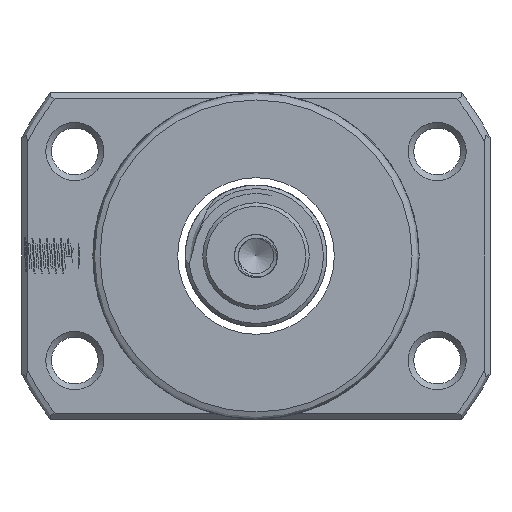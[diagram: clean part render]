
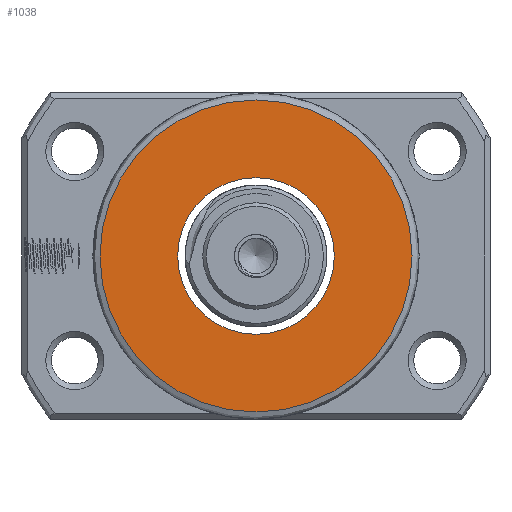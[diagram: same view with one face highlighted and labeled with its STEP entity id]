
A CAD part, left-side view. The second image highlights one B-rep face of the part: STEP entity #1038.
In plain terms, the highlighted planar face has unit normal (-1, 0, 0).
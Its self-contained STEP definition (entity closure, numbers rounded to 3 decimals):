
#588 = PLANE ( 'NONE',  #20455 ) ;
#1038 = ADVANCED_FACE ( 'NONE', ( #18660, #4500 ), #588, .T. ) ;
#1534 = EDGE_CURVE ( 'NONE', #21219, #21219, #4099, .T. ) ;
#2932 = DIRECTION ( 'NONE',  ( 0., 0., 1. ) ) ;
#2977 = EDGE_LOOP ( 'NONE', ( #25491 ) ) ;
#3141 = VERTEX_POINT ( 'NONE', #21874 ) ;
#4099 = CIRCLE ( 'NONE', #12275, 11.05 ) ;
#4500 = FACE_BOUND ( 'NONE', #7400, .T. ) ;
#4908 = CARTESIAN_POINT ( 'NONE',  ( -53.324, 0., 11.05 ) ) ;
#6401 = DIRECTION ( 'NONE',  ( 0., 0., 1. ) ) ;
#7400 = EDGE_LOOP ( 'NONE', ( #24406 ) ) ;
#9677 = EDGE_CURVE ( 'NONE', #3141, #3141, #25197, .T. ) ;
#10786 = CARTESIAN_POINT ( 'NONE',  ( -53.324, 0., 0. ) ) ;
#12275 = AXIS2_PLACEMENT_3D ( 'NONE', #10786, #25068, #2932 ) ;
#14000 = CARTESIAN_POINT ( 'NONE',  ( -53.324, 0., 0. ) ) ;
#16644 = CARTESIAN_POINT ( 'NONE',  ( -53.324, 11.05, 0. ) ) ;
#18660 = FACE_OUTER_BOUND ( 'NONE', #2977, .T. ) ;
#20078 = AXIS2_PLACEMENT_3D ( 'NONE', #14000, #24380, #26405 ) ;
#20455 = AXIS2_PLACEMENT_3D ( 'NONE', #16644, #24861, #6401 ) ;
#21219 = VERTEX_POINT ( 'NONE', #4908 ) ;
#21874 = CARTESIAN_POINT ( 'NONE',  ( -53.324, 0., 22. ) ) ;
#24380 = DIRECTION ( 'NONE',  ( -1., 0., 0. ) ) ;
#24406 = ORIENTED_EDGE ( 'NONE', *, *, #1534, .F. ) ;
#24861 = DIRECTION ( 'NONE',  ( -1., 0., 0. ) ) ;
#25068 = DIRECTION ( 'NONE',  ( -1., 0., 0. ) ) ;
#25197 = CIRCLE ( 'NONE', #20078, 22. ) ;
#25491 = ORIENTED_EDGE ( 'NONE', *, *, #9677, .T. ) ;
#26405 = DIRECTION ( 'NONE',  ( 0., 0., 1. ) ) ;
